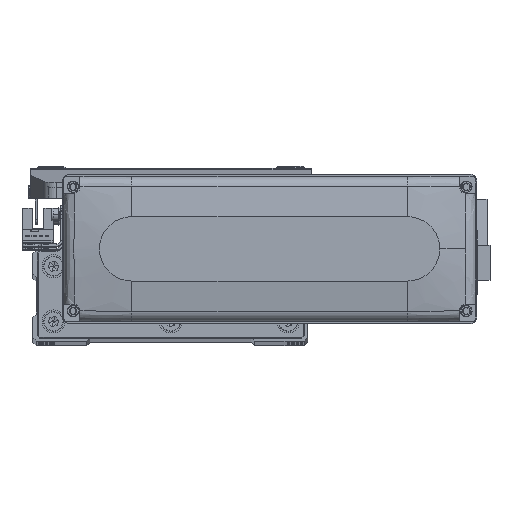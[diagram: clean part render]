
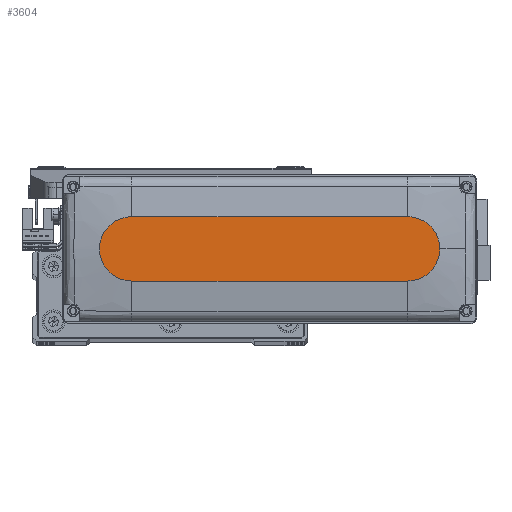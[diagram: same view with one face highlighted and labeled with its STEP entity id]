
A CAD part, top view. The second image highlights one B-rep face of the part: STEP entity #3604.
In plain terms, the highlighted planar face has unit normal (0, 0, 1).
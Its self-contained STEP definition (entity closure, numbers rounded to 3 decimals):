
#29 = ORIENTED_EDGE ( 'NONE', *, *, #15087, .T. ) ;
#1800 = ORIENTED_EDGE ( 'NONE', *, *, #26709, .T. ) ;
#2025 = FACE_OUTER_BOUND ( 'NONE', #33549, .T. ) ;
#3604 = ADVANCED_FACE ( 'NONE', ( #2025 ), #49017, .T. ) ;
#4243 = AXIS2_PLACEMENT_3D ( 'NONE', #30007, #51916, #9359 ) ;
#5577 = EDGE_CURVE ( 'NONE', #27389, #48112, #51699, .T. ) ;
#6186 = VERTEX_POINT ( 'NONE', #40176 ) ;
#6975 = ORIENTED_EDGE ( 'NONE', *, *, #31548, .T. ) ;
#8592 = CARTESIAN_POINT ( 'NONE',  ( -60., 14., 28.5 ) ) ;
#9359 = DIRECTION ( 'NONE',  ( 1., 0., 0. ) ) ;
#10376 = DIRECTION ( 'NONE',  ( 0., 0., 1. ) ) ;
#10913 = CARTESIAN_POINT ( 'NONE',  ( 0., 0., 28.5 ) ) ;
#13848 = CIRCLE ( 'NONE', #29875, 14. ) ;
#14071 = EDGE_CURVE ( 'NONE', #48112, #6186, #13848, .T. ) ;
#14270 = DIRECTION ( 'NONE',  ( 1., 0., 0. ) ) ;
#15087 = EDGE_CURVE ( 'NONE', #18520, #37428, #51301, .T. ) ;
#15523 = DIRECTION ( 'NONE',  ( 0., 0., 1. ) ) ;
#17714 = ORIENTED_EDGE ( 'NONE', *, *, #5577, .T. ) ;
#17776 = DIRECTION ( 'NONE',  ( -1., 0., 0. ) ) ;
#18520 = VERTEX_POINT ( 'NONE', #20223 ) ;
#20223 = CARTESIAN_POINT ( 'NONE',  ( 60., -14., 28.5 ) ) ;
#20276 = CARTESIAN_POINT ( 'NONE',  ( -60., 0., 28.5 ) ) ;
#20318 = CARTESIAN_POINT ( 'NONE',  ( 60., 0., 28.5 ) ) ;
#20405 = CARTESIAN_POINT ( 'NONE',  ( -60., 14., 28.5 ) ) ;
#22585 = AXIS2_PLACEMENT_3D ( 'NONE', #10913, #10376, #31826 ) ;
#25572 = CIRCLE ( 'NONE', #4243, 14. ) ;
#26330 = DIRECTION ( 'NONE',  ( 0., 0., 1. ) ) ;
#26709 = EDGE_CURVE ( 'NONE', #6186, #18520, #52361, .T. ) ;
#27389 = VERTEX_POINT ( 'NONE', #45576 ) ;
#29287 = ORIENTED_EDGE ( 'NONE', *, *, #14071, .T. ) ;
#29486 = DIRECTION ( 'NONE',  ( 1., 0., 0. ) ) ;
#29875 = AXIS2_PLACEMENT_3D ( 'NONE', #20276, #15523, #32521 ) ;
#30007 = CARTESIAN_POINT ( 'NONE',  ( 60., 0., 28.5 ) ) ;
#31548 = EDGE_CURVE ( 'NONE', #37428, #27389, #25572, .T. ) ;
#31826 = DIRECTION ( 'NONE',  ( 1., 0., 0. ) ) ;
#32521 = DIRECTION ( 'NONE',  ( 1., 0., 0. ) ) ;
#33549 = EDGE_LOOP ( 'NONE', ( #17714, #29287, #1800, #29, #6975 ) ) ;
#34124 = VECTOR ( 'NONE', #17776, 1000. ) ;
#37428 = VERTEX_POINT ( 'NONE', #41487 ) ;
#39033 = CARTESIAN_POINT ( 'NONE',  ( -60., -14., 28.5 ) ) ;
#40176 = CARTESIAN_POINT ( 'NONE',  ( -60., -14., 28.5 ) ) ;
#41487 = CARTESIAN_POINT ( 'NONE',  ( 74., 0., 28.5 ) ) ;
#45576 = CARTESIAN_POINT ( 'NONE',  ( 60., 14., 28.5 ) ) ;
#48112 = VERTEX_POINT ( 'NONE', #20405 ) ;
#48554 = VECTOR ( 'NONE', #14270, 1000. ) ;
#49017 = PLANE ( 'NONE',  #22585 ) ;
#50386 = AXIS2_PLACEMENT_3D ( 'NONE', #20318, #26330, #29486 ) ;
#51301 = CIRCLE ( 'NONE', #50386, 14. ) ;
#51699 = LINE ( 'NONE', #8592, #34124 ) ;
#51916 = DIRECTION ( 'NONE',  ( 0., 0., 1. ) ) ;
#52361 = LINE ( 'NONE', #39033, #48554 ) ;
